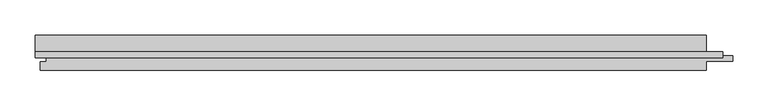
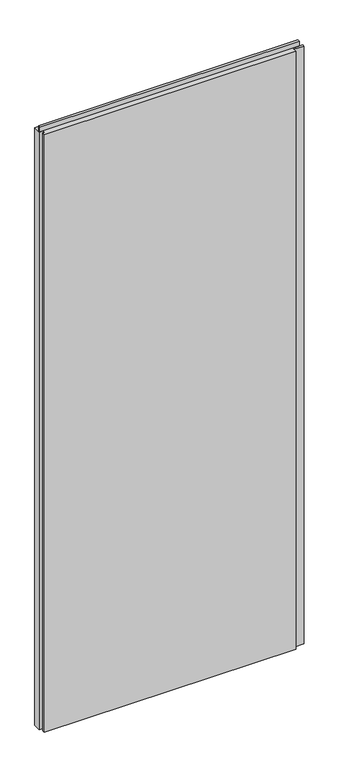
"""IFC4 building model written with IfcOpenShell, lengths in millimetres: plate geometry, Trimo_Qbiss Screen_Normal Panel-VERTICAL : HR - B."""

from ifc_helpers import new_model, si_unit, frame, origin, place, context, project, spatial, polyline, outline, extrude, source, transform, mapped, element, save


def plate_fcb16cc0(model_context):
    return source(origin(), model_context, "Body", "SweptSolid", [
        extrude(outline(polyline([(466.5, 97.0), (466.5, 102.6), (487.5, 102.6), (487.5, 97.0), (466.5, 97.0)])), frame((0.0, 0.0, 12.5), z_axis=(0.0, 0.0, 1.0), x_axis=(1.0, 0.0, 0.0)), (0.0, 0.0, 1.0), 2375.0),
        extrude(outline(polyline([(-488.5, 93.9), (-488.5, 102.6), (488.5, 102.6), (488.5, 93.9), (-488.5, 93.9)])), frame((0.0, 0.0, 2390.5), z_axis=(0.0, 0.0, 1.0), x_axis=(1.0, 0.0, 0.0)), (0.0, 0.0, 1.0), 19.0),
        extrude(outline(polyline([(465.5, 97.0), (503.0, 97.0), (503.0, 89.0), (465.5, 89.0), (465.5, 76.0), (-481.5, 76.0), (-481.5, 88.0), (-473.0, 88.0), (-473.0, 98.0), (-488.5, 98.0), (-488.5, 126.0), (465.5, 126.0), (465.5, 97.0)])), frame((0.0, 0.0, 12.5), z_axis=(0.0, 0.0, 1.0), x_axis=(1.0, 0.0, 0.0)), (0.0, 0.0, 1.0), 2375.0),
    ])


if __name__ == "__main__":
    model = new_model("IFC4")
    model_context = context("Model", 3, world=origin())
    ifc_project = project(units=[si_unit("LENGTHUNIT", "METRE", prefix="MILLI")], contexts=[model_context])
    site = spatial("IfcSite", under=ifc_project)
    building = spatial("IfcBuilding", under=site)
    placement = place(None, origin())
    plate_shape = plate_fcb16cc0(model_context)
    element("IfcPlate", 1, ObjectType="Trimo_Qbiss Screen_Normal Panel-VERTICAL : HR - B", at=placement, inside=building, context=model_context, shape_type="MappedRepresentation", body=[
        mapped(plate_shape, transform((0.0, 0.0, 0.0), x_axis=(1.0, 0.0, 0.0), y_axis=(0.0, 1.0, 0.0), z_axis=(0.0, 0.0, 1.0))),
    ])
    save(model, "model.ifc")
